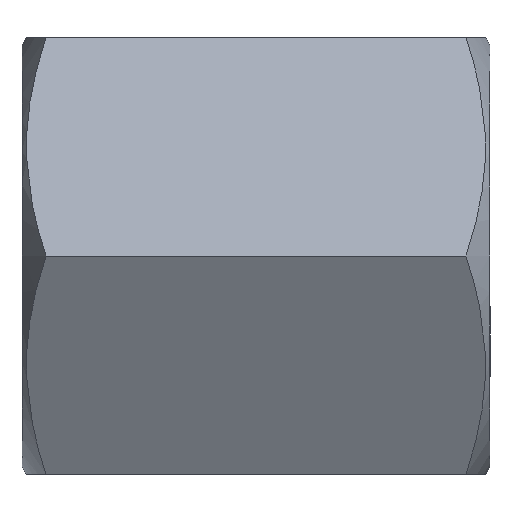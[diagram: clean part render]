
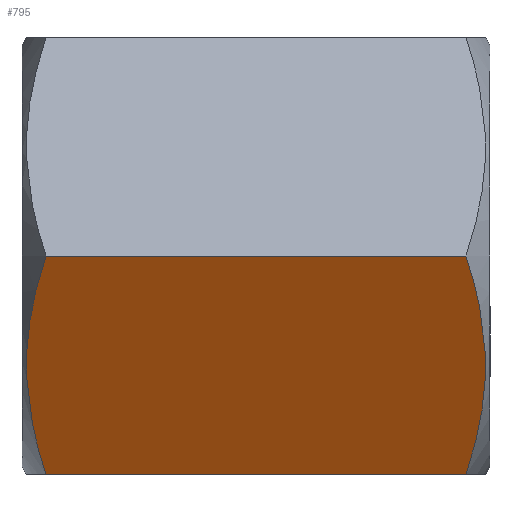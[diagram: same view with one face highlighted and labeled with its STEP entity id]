
A CAD part, front view. The second image highlights one B-rep face of the part: STEP entity #795.
In plain terms, the highlighted planar face has unit normal (0, -0.866, -0.5) as drawn and (-0.5, -0.866, 0) by its records, which use the part's own axes.
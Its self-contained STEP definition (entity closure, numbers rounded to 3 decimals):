
#168=CARTESIAN_POINT('',(-7.,-4.041,6.73));
#169=VERTEX_POINT('',#168);
#183=CARTESIAN_POINT('',(0.,-8.083,6.73));
#184=VERTEX_POINT('',#183);
#185=CARTESIAN_POINT('',(0.,-8.083,6.73));
#186=CARTESIAN_POINT('',(-3.5,-6.062,7.897));
#187=CARTESIAN_POINT('',(-7.,-4.041,6.73));
#195=(BOUNDED_CURVE()B_SPLINE_CURVE(2,(#185,#186,#187),.UNSPECIFIED.,.F.,.U.)B_SPLINE_CURVE_WITH_KNOTS((3,3),(2.422,11.671),.UNSPECIFIED.)CURVE()GEOMETRIC_REPRESENTATION_ITEM()RATIONAL_B_SPLINE_CURVE((1.114,1.286,1.114))REPRESENTATION_ITEM(''));
#196=EDGE_CURVE('',#184,#169,#195,.T.);
#259=CARTESIAN_POINT('',(0.,-8.083,-6.73));
#260=VERTEX_POINT('',#259);
#274=CARTESIAN_POINT('',(-7.,-4.041,-6.73));
#275=VERTEX_POINT('',#274);
#276=CARTESIAN_POINT('',(-7.,-4.041,-6.73));
#277=CARTESIAN_POINT('',(-3.5,-6.062,-7.897));
#278=CARTESIAN_POINT('',(0.,-8.083,-6.73));
#286=(BOUNDED_CURVE()B_SPLINE_CURVE(2,(#276,#277,#278),.UNSPECIFIED.,.F.,.U.)B_SPLINE_CURVE_WITH_KNOTS((3,3),(2.422,11.671),.UNSPECIFIED.)CURVE()GEOMETRIC_REPRESENTATION_ITEM()RATIONAL_B_SPLINE_CURVE((1.114,1.286,1.114))REPRESENTATION_ITEM(''));
#287=EDGE_CURVE('',#275,#260,#286,.T.);
#745=CARTESIAN_POINT('',(-7.,-4.041,6.73));
#746=DIRECTION('',(0.0,0.0,-1.0));
#747=VECTOR('',#746,13.461);
#748=LINE('',#745,#747);
#749=EDGE_CURVE('',#169,#275,#748,.T.);
#779=CARTESIAN_POINT('',(-7.,-4.041,0.0));
#780=DIRECTION('',(-0.5,-0.866,0.0));
#781=DIRECTION('',(0.0,0.0,-1.0));
#782=AXIS2_PLACEMENT_3D('',#779,#780,#781);
#783=PLANE('',#782);
#784=ORIENTED_EDGE('',*,*,#287,.T.);
#785=CARTESIAN_POINT('',(0.,-8.083,-6.73));
#786=DIRECTION('',(0.0,0.0,1.0));
#787=VECTOR('',#786,13.461);
#788=LINE('',#785,#787);
#789=EDGE_CURVE('',#260,#184,#788,.T.);
#790=ORIENTED_EDGE('',*,*,#789,.T.);
#791=ORIENTED_EDGE('',*,*,#196,.T.);
#792=ORIENTED_EDGE('',*,*,#749,.T.);
#793=EDGE_LOOP('',(#784,#790,#791,#792));
#794=FACE_OUTER_BOUND('',#793,.T.);
#795=ADVANCED_FACE('',(#794),#783,.T.);
